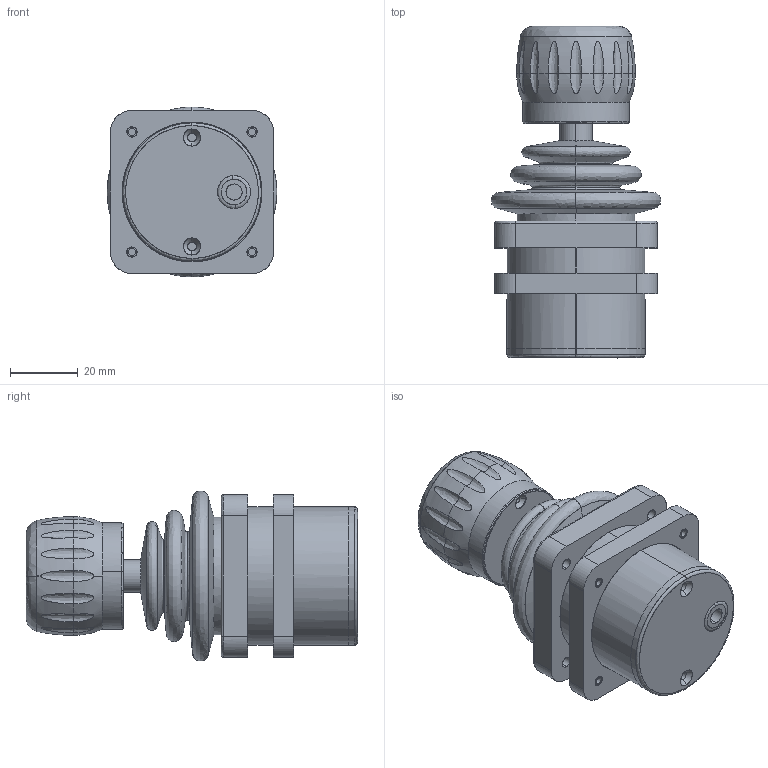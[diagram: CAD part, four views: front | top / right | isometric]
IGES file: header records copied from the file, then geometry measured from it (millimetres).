
Start section: SolidWorks IGES file using analytic representation for surfaces
Global section: file name: C:\Dokumente und Einstellungen\marcoa\Desktop\TRY10_4516111.IGS; native system: SolidWorks 2007; preprocessor: SolidWorks 2007; author: marcoa; date: 111130.101411; units: inch
Bounding box: 50.3 x 98.27 x 50.32 mm (x, y, z)
Surface area: 27358.3 mm2 (no closed solid volume)
Topology: 0 solids, 0 shells, 240 faces, 4280 edges, 4280 vertices
Faces by surface type: bspline 142, revolution 98
